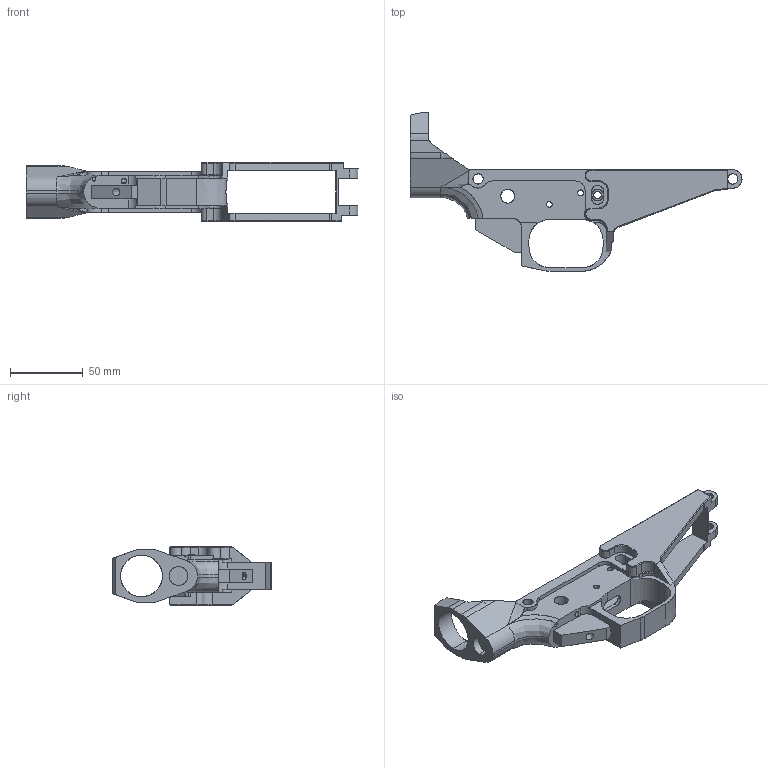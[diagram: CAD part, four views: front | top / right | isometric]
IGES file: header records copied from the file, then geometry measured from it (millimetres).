
Start section: SolidWorks IGES file using analytic representation for surfaces
Global section: file name: C:\Documents and Settings\Sally  Dannenberg\Desktop\arg3.IGS; native system: SolidWorks 2006 by SolidWorks Corporation; preprocessor: SolidWorks 2006 by SolidWorks Corporation; author: Sally  Dannenberg; date: 090331.205808; units: inch
Bounding box: 227.78 x 108.81 x 40.64 mm (x, y, z)
Surface area: 48616.5 mm2 (no closed solid volume)
Topology: 0 solids, 0 shells, 269 faces, 4095 edges, 4095 vertices
Faces by surface type: bspline 138, revolution 131
